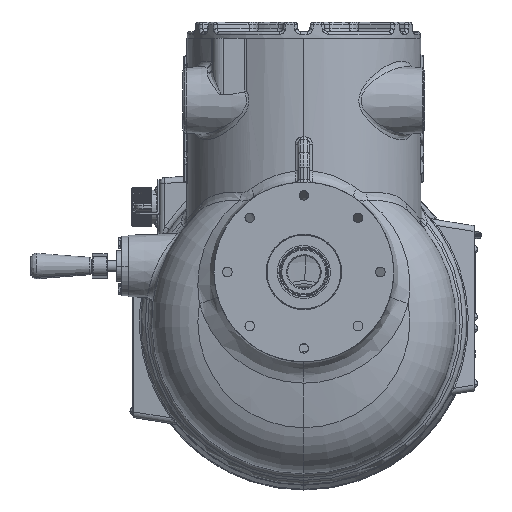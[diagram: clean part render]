
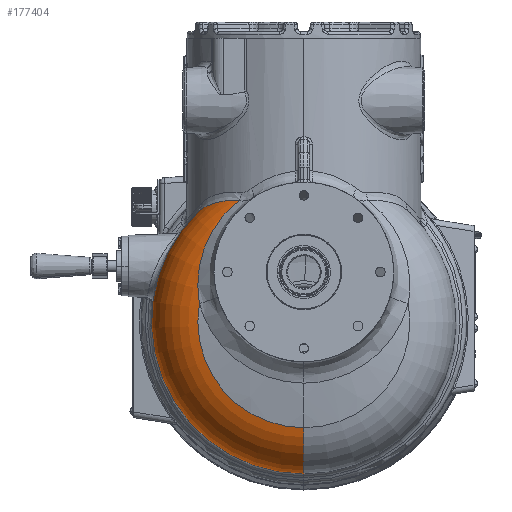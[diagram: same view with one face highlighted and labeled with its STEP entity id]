
A CAD part, front view. The second image highlights one B-rep face of the part: STEP entity #177404.
In plain terms, the highlighted toroidal (fillet/blend) face has major radius 75.438 mm and minor radius 50.8 mm.
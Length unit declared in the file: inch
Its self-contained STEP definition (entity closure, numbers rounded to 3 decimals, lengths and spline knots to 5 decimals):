
#905 = CIRCLE ( 'NONE', #138538, 3.465 ) ;
#6436 = CARTESIAN_POINT ( 'NONE',  ( -3.28682, -8.49352, 2.31677 ) ) ;
#7753 = CARTESIAN_POINT ( 'NONE',  ( -3.44593, -8.61336, 1.58037 ) ) ;
#14620 = CARTESIAN_POINT ( 'NONE',  ( -2.38119, -7.91713, 3.96273 ) ) ;
#15907 = CARTESIAN_POINT ( 'NONE',  ( -3.27204, -7.03744, 3.72686 ) ) ;
#17744 = FACE_OUTER_BOUND ( 'NONE', #200479, .T. ) ;
#24395 = AXIS2_PLACEMENT_3D ( 'NONE', #207792, #168494, #187503 ) ;
#27976 = CARTESIAN_POINT ( 'NONE',  ( -3.40489, -8.57189, 1.85719 ) ) ;
#33547 = CARTESIAN_POINT ( 'NONE',  ( -3.43083, -6.78953, 3.59587 ) ) ;
#39951 = VERTEX_POINT ( 'NONE', #86199 ) ;
#46851 = CARTESIAN_POINT ( 'NONE',  ( -2.23409, -8.12122, 3.86643 ) ) ;
#53822 = CARTESIAN_POINT ( 'NONE',  ( -3.13191, -7.21762, 3.80073 ) ) ;
#54222 = CARTESIAN_POINT ( 'NONE',  ( -3.41492, -8.7273, 0.58697 ) ) ;
#61126 = VERTEX_POINT ( 'NONE', #130994 ) ;
#62022 = DIRECTION ( 'NONE',  ( 0., 0., 1. ) ) ;
#73387 = EDGE_CURVE ( 'NONE', #39951, #216422, #128842, .T. ) ;
#76703 = CARTESIAN_POINT ( 'NONE',  ( -2.92475, -7.45109, 3.87858 ) ) ;
#79036 = AXIS2_PLACEMENT_3D ( 'NONE', #106801, #227086, #205557 ) ;
#83617 = VERTEX_POINT ( 'NONE', #196615 ) ;
#84500 = B_SPLINE_CURVE_WITH_KNOTS ( 'NONE', 3,
 ( #195693, #157738, #93017, #14620, #94349, #259135, #96996, #261779, #76703, #238828, #115872, #198378, #53822, #15907, #218600, #33547 ),
 .UNSPECIFIED., .F., .F.,
 ( 4, 2, 2, 2, 2, 2, 2, 4 ),
 ( 0., 0.00617, 0.01234, 0.02468, 0.02777, 0.03085, 0.03702, 0.04936 ),
 .UNSPECIFIED. ) ;
#84776 = ORIENTED_EDGE ( 'NONE', *, *, #146470, .T. ) ;
#86068 = CARTESIAN_POINT ( 'NONE',  ( -3.46556, -8.6412, 1.38191 ) ) ;
#86199 = CARTESIAN_POINT ( 'NONE',  ( 0., -6.78953, -4.97 ) ) ;
#87389 = CARTESIAN_POINT ( 'NONE',  ( -3.04729, -8.38289, 2.8598 ) ) ;
#87586 = DIRECTION ( 'NONE',  ( 0., -1., 0. ) ) ;
#88720 = CARTESIAN_POINT ( 'NONE',  ( -2.95152, -8.34437, 3.03251 ) ) ;
#93017 = CARTESIAN_POINT ( 'NONE',  ( -2.24723, -8.00686, 3.96574 ) ) ;
#94349 = CARTESIAN_POINT ( 'NONE',  ( -2.44637, -7.87035, 3.95929 ) ) ;
#96996 = CARTESIAN_POINT ( 'NONE',  ( -2.7563, -7.61965, 3.92333 ) ) ;
#106314 = CARTESIAN_POINT ( 'NONE',  ( -3.45888, -8.69751, 0.90515 ) ) ;
#106801 = CARTESIAN_POINT ( 'NONE',  ( 0., -6.78953, 0. ) ) ;
#107668 = CARTESIAN_POINT ( 'NONE',  ( -3.10199, -8.4058, 2.75418 ) ) ;
#111298 = ORIENTED_EDGE ( 'NONE', *, *, #170606, .F. ) ;
#115872 = CARTESIAN_POINT ( 'NONE',  ( -3.00536, -7.36458, 3.8522 ) ) ;
#126507 = CARTESIAN_POINT ( 'NONE',  ( -3.44244, -8.71349, 0.74611 ) ) ;
#127826 = CARTESIAN_POINT ( 'NONE',  ( -3.17004, -8.4359, 2.61048 ) ) ;
#128842 = CIRCLE ( 'NONE', #159141, 2. ) ;
#130471 = CARTESIAN_POINT ( 'NONE',  ( -2.10837, -8.09051, 3.96309 ) ) ;
#130994 = CARTESIAN_POINT ( 'NONE',  ( -2.10837, -8.09051, 3.96309 ) ) ;
#131765 = CARTESIAN_POINT ( 'NONE',  ( -2.86616, -8.31295, 3.16437 ) ) ;
#138538 = AXIS2_PLACEMENT_3D ( 'NONE', #207920, #87586, #62022 ) ;
#140684 = CIRCLE ( 'NONE', #24395, 4.97 ) ;
#146470 = EDGE_CURVE ( 'NONE', #61126, #83617, #84500, .T. ) ;
#148045 = TOROIDAL_SURFACE ( 'NONE', #79036, 2.97, 2. ) ;
#148143 = CARTESIAN_POINT ( 'NONE',  ( -3.3338, -8.52077, 2.16613 ) ) ;
#149471 = CARTESIAN_POINT ( 'NONE',  ( -2.51982, -8.20112, 3.59199 ) ) ;
#149911 = DIRECTION ( 'NONE',  ( 0., 0., -1. ) ) ;
#157738 = CARTESIAN_POINT ( 'NONE',  ( -2.17839, -8.04985, 3.96529 ) ) ;
#159141 = AXIS2_PLACEMENT_3D ( 'NONE', #259273, #235014, #149911 ) ;
#168427 = CARTESIAN_POINT ( 'NONE',  ( -3.44133, -8.60767, 1.62005 ) ) ;
#168494 = DIRECTION ( 'NONE',  ( 0., 1., 0. ) ) ;
#168792 = ORIENTED_EDGE ( 'NONE', *, *, #213578, .F. ) ;
#169779 = CARTESIAN_POINT ( 'NONE',  ( -2.5734, -8.21723, 3.53374 ) ) ;
#170606 = EDGE_CURVE ( 'NONE', #39951, #83617, #140684, .T. ) ;
#171124 = CARTESIAN_POINT ( 'NONE',  ( -2.67607, -8.2493, 3.41424 ) ) ;
#172456 = CARTESIAN_POINT ( 'NONE',  ( -3.11951, -8.41339, 2.71839 ) ) ;
#177404 = ADVANCED_FACE ( 'NONE', ( #17744 ), #148045, .T. ) ;
#187503 = DIRECTION ( 'NONE',  ( 0., 0., 1. ) ) ;
#188758 = CARTESIAN_POINT ( 'NONE',  ( -3.47044, -8.66137, 1.22305 ) ) ;
#191436 = CARTESIAN_POINT ( 'NONE',  ( -3.38903, -8.55939, 1.93506 ) ) ;
#192742 = CARTESIAN_POINT ( 'NONE',  ( -2.72522, -8.26528, 3.35293 ) ) ;
#194011 = B_SPLINE_CURVE_WITH_KNOTS ( 'NONE', 3,
 ( #235897, #126507, #106314, #188758, #86068, #7753, #168427, #250873, #213019, #27976, #191436, #148143, #6436, #230623, #127826, #172456, #107668, #254858, #87389, #88720, #131765, #192742, #171124, #169779, #149471, #231922, #46851, #130471 ),
 .UNSPECIFIED., .F., .F.,
 ( 4, 2, 2, 2, 2, 2, 2, 2, 2, 2, 2, 2, 2, 4 ),
 ( 0., 0.01219, 0.02439, 0.02744, 0.03049, 0.03658, 0.04878, 0.05488, 0.05793, 0.06097, 0.07317, 0.07927, 0.08536, 0.09756 ),
 .UNSPECIFIED. ) ;
#195693 = CARTESIAN_POINT ( 'NONE',  ( -2.10837, -8.09051, 3.96309 ) ) ;
#196092 = ORIENTED_EDGE ( 'NONE', *, *, #73387, .T. ) ;
#196615 = CARTESIAN_POINT ( 'NONE',  ( -3.43083, -6.78953, 3.59587 ) ) ;
#198378 = CARTESIAN_POINT ( 'NONE',  ( -3.08279, -7.27694, 3.82278 ) ) ;
#200479 = EDGE_LOOP ( 'NONE', ( #215435, #84776, #111298, #196092, #168792 ) ) ;
#202697 = EDGE_CURVE ( 'NONE', #257175, #61126, #194011, .T. ) ;
#205557 = DIRECTION ( 'NONE',  ( 0., 0., 1. ) ) ;
#207792 = CARTESIAN_POINT ( 'NONE',  ( 0., -6.78953, 0. ) ) ;
#207920 = CARTESIAN_POINT ( 'NONE',  ( 0., -8.7273, 0. ) ) ;
#213019 = CARTESIAN_POINT ( 'NONE',  ( -3.42476, -8.59004, 1.73907 ) ) ;
#213578 = EDGE_CURVE ( 'NONE', #257175, #216422, #905, .T. ) ;
#215435 = ORIENTED_EDGE ( 'NONE', *, *, #202697, .T. ) ;
#216422 = VERTEX_POINT ( 'NONE', #243304 ) ;
#218600 = CARTESIAN_POINT ( 'NONE',  ( -3.35589, -6.91433, 3.66738 ) ) ;
#227086 = DIRECTION ( 'NONE',  ( 0., 1., 0. ) ) ;
#230623 = CARTESIAN_POINT ( 'NONE',  ( -3.20114, -8.45056, 2.53769 ) ) ;
#231922 = CARTESIAN_POINT ( 'NONE',  ( -2.35264, -8.15288, 3.7616 ) ) ;
#235014 = DIRECTION ( 'NONE',  ( -1., 0., 0. ) ) ;
#235897 = CARTESIAN_POINT ( 'NONE',  ( -3.41492, -8.7273, 0.58697 ) ) ;
#238828 = CARTESIAN_POINT ( 'NONE',  ( -2.97892, -7.39358, 3.86139 ) ) ;
#243304 = CARTESIAN_POINT ( 'NONE',  ( 0., -8.7273, -3.465 ) ) ;
#250873 = CARTESIAN_POINT ( 'NONE',  ( -3.43074, -8.596, 1.69941 ) ) ;
#254858 = CARTESIAN_POINT ( 'NONE',  ( -3.06589, -8.39055, 2.82486 ) ) ;
#257175 = VERTEX_POINT ( 'NONE', #54222 ) ;
#259135 = CARTESIAN_POINT ( 'NONE',  ( -2.63659, -7.7244, 3.9427 ) ) ;
#259273 = CARTESIAN_POINT ( 'NONE',  ( 0., -6.78953, -2.97 ) ) ;
#261779 = CARTESIAN_POINT ( 'NONE',  ( -2.897, -7.47962, 3.88659 ) ) ;
